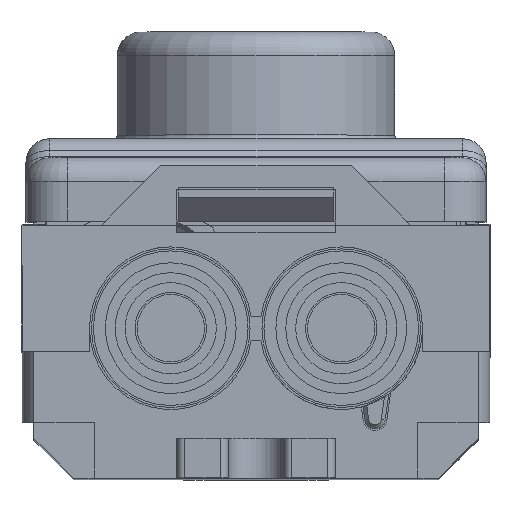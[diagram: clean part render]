
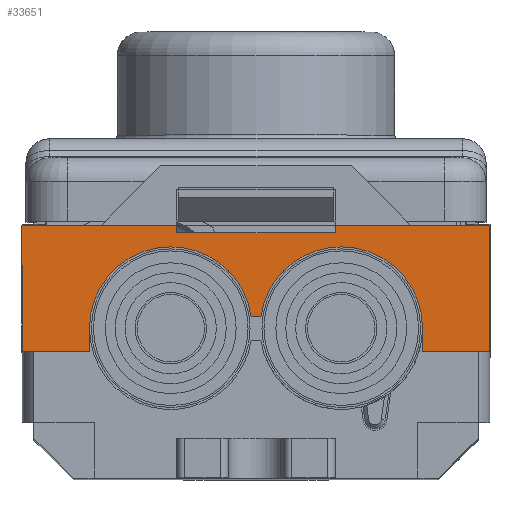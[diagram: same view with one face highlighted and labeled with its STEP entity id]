
A CAD part, top view. The second image highlights one B-rep face of the part: STEP entity #33651.
In plain terms, the highlighted planar face has unit normal (0, 0, 1).
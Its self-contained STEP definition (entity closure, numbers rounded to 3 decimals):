
#193 = AXIS2_PLACEMENT_3D ( 'NONE', #35451, #18907, #2341 ) ;
#466 = LINE ( 'NONE', #6803, #29001 ) ;
#472 = CARTESIAN_POINT ( 'NONE',  ( -10.534, -0.672, 161.7 ) ) ;
#764 = LINE ( 'NONE', #15479, #1636 ) ;
#1295 = DIRECTION ( 'NONE',  ( 0., 1., 0. ) ) ;
#1578 = CARTESIAN_POINT ( 'NONE',  ( 29.716, -3.672, 161.7 ) ) ;
#1636 = VECTOR ( 'NONE', #12692, 1000. ) ;
#2069 = DIRECTION ( 'NONE',  ( -1., 0., 0. ) ) ;
#2113 = CARTESIAN_POINT ( 'NONE',  ( 21.216, -3.672, 161.7 ) ) ;
#2341 = DIRECTION ( 'NONE',  ( 0., 1., 0. ) ) ;
#2652 = VERTEX_POINT ( 'NONE', #11142 ) ;
#3189 = LINE ( 'NONE', #32000, #9691 ) ;
#3286 = DIRECTION ( 'NONE',  ( 0., -1., 0. ) ) ;
#3291 = ORIENTED_EDGE ( 'NONE', *, *, #16655, .F. ) ;
#3366 = DIRECTION ( 'NONE',  ( 0., -1., 0. ) ) ;
#3983 = VERTEX_POINT ( 'NONE', #25738 ) ;
#4282 = LINE ( 'NONE', #28019, #32796 ) ;
#4359 = PLANE ( 'NONE',  #15452 ) ;
#4588 = CARTESIAN_POINT ( 'NONE',  ( -9.784, 16.828, 161.7 ) ) ;
#4654 = CARTESIAN_POINT ( 'NONE',  ( 29.716, 12.328, 161.7 ) ) ;
#4848 = VECTOR ( 'NONE', #2069, 1000. ) ;
#4906 = ORIENTED_EDGE ( 'NONE', *, *, #7270, .F. ) ;
#5182 = ORIENTED_EDGE ( 'NONE', *, *, #32424, .F. ) ;
#5707 = LINE ( 'NONE', #7504, #4848 ) ;
#5892 = LINE ( 'NONE', #4654, #19719 ) ;
#6445 = EDGE_CURVE ( 'NONE', #16524, #27363, #3189, .T. ) ;
#6488 = VERTEX_POINT ( 'NONE', #12772 ) ;
#6685 = LINE ( 'NONE', #4588, #8413 ) ;
#6764 = EDGE_CURVE ( 'NONE', #7862, #10873, #24777, .T. ) ;
#6803 = CARTESIAN_POINT ( 'NONE',  ( -29.284, -3.672, 161.7 ) ) ;
#7066 = LINE ( 'NONE', #17296, #35581 ) ;
#7142 = DIRECTION ( 'NONE',  ( 0., -1., 0. ) ) ;
#7270 = EDGE_CURVE ( 'NONE', #13133, #8715, #16107, .T. ) ;
#7403 = DIRECTION ( 'NONE',  ( 1., 0., 0. ) ) ;
#7504 = CARTESIAN_POINT ( 'NONE',  ( -29.284, -3.672, 161.7 ) ) ;
#7862 = VERTEX_POINT ( 'NONE', #9915 ) ;
#8332 = VERTEX_POINT ( 'NONE', #12798 ) ;
#8413 = VECTOR ( 'NONE', #23915, 1000. ) ;
#8424 = ORIENTED_EDGE ( 'NONE', *, *, #22239, .F. ) ;
#8715 = VERTEX_POINT ( 'NONE', #18320 ) ;
#9582 = DIRECTION ( 'NONE',  ( -1., 0., 0. ) ) ;
#9691 = VECTOR ( 'NONE', #23683, 1000. ) ;
#9915 = CARTESIAN_POINT ( 'NONE',  ( -29.284, -3.672, 161.7 ) ) ;
#10326 = AXIS2_PLACEMENT_3D ( 'NONE', #472, #19843, #3286 ) ;
#10445 = EDGE_LOOP ( 'NONE', ( #28485, #20502, #35574, #3291, #26222, #18863, #8424, #17140, #29489, #35509, #28994, #34453, #12145, #5182, #18344, #4906 ) ) ;
#10873 = VERTEX_POINT ( 'NONE', #33838 ) ;
#11142 = CARTESIAN_POINT ( 'NONE',  ( 29.716, -3.672, 161.7 ) ) ;
#11628 = EDGE_CURVE ( 'NONE', #8715, #19212, #764, .T. ) ;
#11888 = CARTESIAN_POINT ( 'NONE',  ( -29.284, -3.672, 161.7 ) ) ;
#12140 = DIRECTION ( 'NONE',  ( -1., 0., 0. ) ) ;
#12145 = ORIENTED_EDGE ( 'NONE', *, *, #35336, .F. ) ;
#12634 = DIRECTION ( 'NONE',  ( 0., 0., 1. ) ) ;
#12692 = DIRECTION ( 'NONE',  ( 0., 1., 0. ) ) ;
#12765 = VECTOR ( 'NONE', #3366, 1000. ) ;
#12772 = CARTESIAN_POINT ( 'NONE',  ( 29.716, 12.328, 161.7 ) ) ;
#12798 = CARTESIAN_POINT ( 'NONE',  ( -0.394, 0.828, 161.7 ) ) ;
#13002 = CIRCLE ( 'NONE', #18745, 10.25 ) ;
#13133 = VERTEX_POINT ( 'NONE', #24382 ) ;
#13277 = CIRCLE ( 'NONE', #10326, 10.25 ) ;
#13612 = EDGE_CURVE ( 'NONE', #29893, #3983, #15362, .T. ) ;
#13994 = CARTESIAN_POINT ( 'NONE',  ( -20.784, -0.672, 161.7 ) ) ;
#14203 = CARTESIAN_POINT ( 'NONE',  ( -10.534, 9.578, 161.7 ) ) ;
#14494 = DIRECTION ( 'NONE',  ( 1., 0., 0. ) ) ;
#15219 = CARTESIAN_POINT ( 'NONE',  ( 10.216, 11.328, 161.7 ) ) ;
#15362 = CIRCLE ( 'NONE', #193, 10.25 ) ;
#15452 = AXIS2_PLACEMENT_3D ( 'NONE', #1578, #29098, #7142 ) ;
#15473 = DIRECTION ( 'NONE',  ( 1., 0., 0. ) ) ;
#15479 = CARTESIAN_POINT ( 'NONE',  ( 10.216, 16.828, 161.7 ) ) ;
#16107 = LINE ( 'NONE', #15219, #28198 ) ;
#16524 = VERTEX_POINT ( 'NONE', #2113 ) ;
#16655 = EDGE_CURVE ( 'NONE', #32156, #7862, #466, .T. ) ;
#16740 = CARTESIAN_POINT ( 'NONE',  ( -20.784, -3.672, 161.7 ) ) ;
#17140 = ORIENTED_EDGE ( 'NONE', *, *, #35798, .F. ) ;
#17296 = CARTESIAN_POINT ( 'NONE',  ( 29.716, -3.672, 161.7 ) ) ;
#17496 = CIRCLE ( 'NONE', #27680, 10.25 ) ;
#17849 = DIRECTION ( 'NONE',  ( 0., 0., 1. ) ) ;
#18320 = CARTESIAN_POINT ( 'NONE',  ( 10.216, 11.328, 161.7 ) ) ;
#18344 = ORIENTED_EDGE ( 'NONE', *, *, #11628, .F. ) ;
#18745 = AXIS2_PLACEMENT_3D ( 'NONE', #29191, #12634, #31991 ) ;
#18863 = ORIENTED_EDGE ( 'NONE', *, *, #31218, .F. ) ;
#18907 = DIRECTION ( 'NONE',  ( 0., 0., 1. ) ) ;
#19212 = VERTEX_POINT ( 'NONE', #31572 ) ;
#19719 = VECTOR ( 'NONE', #7403, 1000. ) ;
#19843 = DIRECTION ( 'NONE',  ( 0., 0., 1. ) ) ;
#20087 = DIRECTION ( 'NONE',  ( 0., -1., 0. ) ) ;
#20135 = LINE ( 'NONE', #25228, #12765 ) ;
#20502 = ORIENTED_EDGE ( 'NONE', *, *, #25346, .F. ) ;
#21659 = EDGE_CURVE ( 'NONE', #2652, #16524, #5707, .T. ) ;
#22040 = CARTESIAN_POINT ( 'NONE',  ( 21.216, -0.672, 161.7 ) ) ;
#22239 = EDGE_CURVE ( 'NONE', #8332, #26892, #13002, .T. ) ;
#23459 = VERTEX_POINT ( 'NONE', #13994 ) ;
#23468 = LINE ( 'NONE', #28714, #30785 ) ;
#23549 = CARTESIAN_POINT ( 'NONE',  ( 10.966, 9.578, 161.7 ) ) ;
#23683 = DIRECTION ( 'NONE',  ( 0., 1., 0. ) ) ;
#23915 = DIRECTION ( 'NONE',  ( 0., -1., 0. ) ) ;
#24316 = VERTEX_POINT ( 'NONE', #30133 ) ;
#24382 = CARTESIAN_POINT ( 'NONE',  ( -9.784, 11.328, 161.7 ) ) ;
#24777 = LINE ( 'NONE', #11888, #32143 ) ;
#25228 = CARTESIAN_POINT ( 'NONE',  ( -20.784, -3.672, 161.7 ) ) ;
#25346 = EDGE_CURVE ( 'NONE', #10873, #24316, #4282, .T. ) ;
#25738 = CARTESIAN_POINT ( 'NONE',  ( 0.826, 0.828, 161.7 ) ) ;
#26222 = ORIENTED_EDGE ( 'NONE', *, *, #32703, .F. ) ;
#26892 = VERTEX_POINT ( 'NONE', #14203 ) ;
#26968 = FACE_OUTER_BOUND ( 'NONE', #10445, .T. ) ;
#27363 = VERTEX_POINT ( 'NONE', #22040 ) ;
#27680 = AXIS2_PLACEMENT_3D ( 'NONE', #34424, #17849, #1295 ) ;
#28019 = CARTESIAN_POINT ( 'NONE',  ( 29.716, 12.328, 161.7 ) ) ;
#28198 = VECTOR ( 'NONE', #15473, 1000. ) ;
#28485 = ORIENTED_EDGE ( 'NONE', *, *, #34511, .F. ) ;
#28714 = CARTESIAN_POINT ( 'NONE',  ( 0.826, 0.828, 161.7 ) ) ;
#28994 = ORIENTED_EDGE ( 'NONE', *, *, #6445, .F. ) ;
#29001 = VECTOR ( 'NONE', #9582, 1000. ) ;
#29098 = DIRECTION ( 'NONE',  ( 0., 0., 1. ) ) ;
#29191 = CARTESIAN_POINT ( 'NONE',  ( -10.534, -0.672, 161.7 ) ) ;
#29489 = ORIENTED_EDGE ( 'NONE', *, *, #13612, .F. ) ;
#29893 = VERTEX_POINT ( 'NONE', #23549 ) ;
#30133 = CARTESIAN_POINT ( 'NONE',  ( -9.784, 12.328, 161.7 ) ) ;
#30785 = VECTOR ( 'NONE', #12140, 1000. ) ;
#31208 = DIRECTION ( 'NONE',  ( 0., 1., 0. ) ) ;
#31218 = EDGE_CURVE ( 'NONE', #26892, #23459, #13277, .T. ) ;
#31572 = CARTESIAN_POINT ( 'NONE',  ( 10.216, 12.328, 161.7 ) ) ;
#31991 = DIRECTION ( 'NONE',  ( 0., -1., 0. ) ) ;
#32000 = CARTESIAN_POINT ( 'NONE',  ( 21.216, -3.672, 161.7 ) ) ;
#32143 = VECTOR ( 'NONE', #31208, 1000. ) ;
#32156 = VERTEX_POINT ( 'NONE', #16740 ) ;
#32424 = EDGE_CURVE ( 'NONE', #19212, #6488, #5892, .T. ) ;
#32703 = EDGE_CURVE ( 'NONE', #23459, #32156, #20135, .T. ) ;
#32796 = VECTOR ( 'NONE', #14494, 1000. ) ;
#33651 = ADVANCED_FACE ( 'NONE', ( #26968 ), #4359, .T. ) ;
#33838 = CARTESIAN_POINT ( 'NONE',  ( -29.284, 12.328, 161.7 ) ) ;
#34359 = EDGE_CURVE ( 'NONE', #27363, #29893, #17496, .T. ) ;
#34424 = CARTESIAN_POINT ( 'NONE',  ( 10.966, -0.672, 161.7 ) ) ;
#34453 = ORIENTED_EDGE ( 'NONE', *, *, #21659, .F. ) ;
#34511 = EDGE_CURVE ( 'NONE', #24316, #13133, #6685, .T. ) ;
#35336 = EDGE_CURVE ( 'NONE', #6488, #2652, #7066, .T. ) ;
#35451 = CARTESIAN_POINT ( 'NONE',  ( 10.966, -0.672, 161.7 ) ) ;
#35509 = ORIENTED_EDGE ( 'NONE', *, *, #34359, .F. ) ;
#35574 = ORIENTED_EDGE ( 'NONE', *, *, #6764, .F. ) ;
#35581 = VECTOR ( 'NONE', #20087, 1000. ) ;
#35798 = EDGE_CURVE ( 'NONE', #3983, #8332, #23468, .T. ) ;
